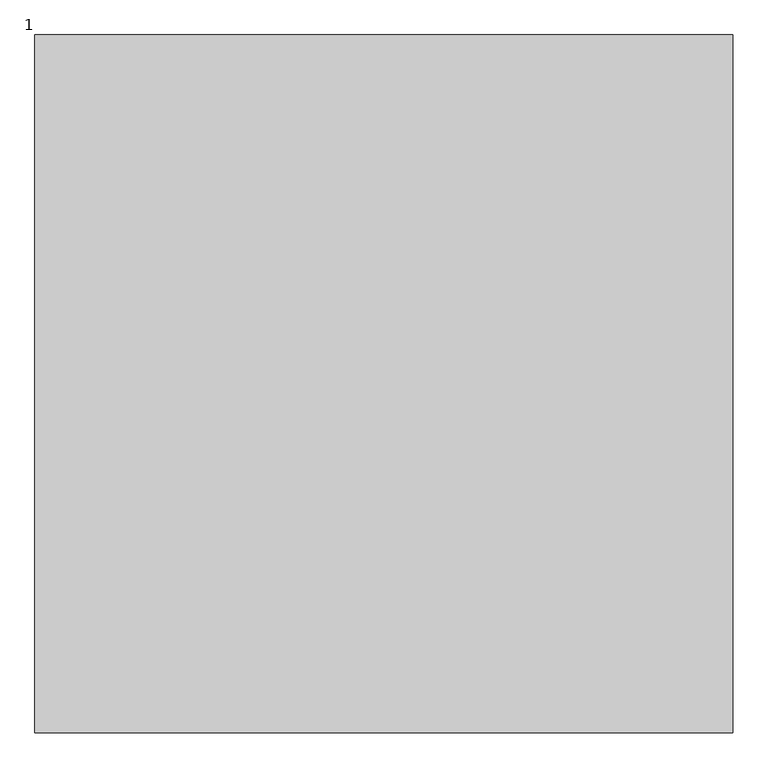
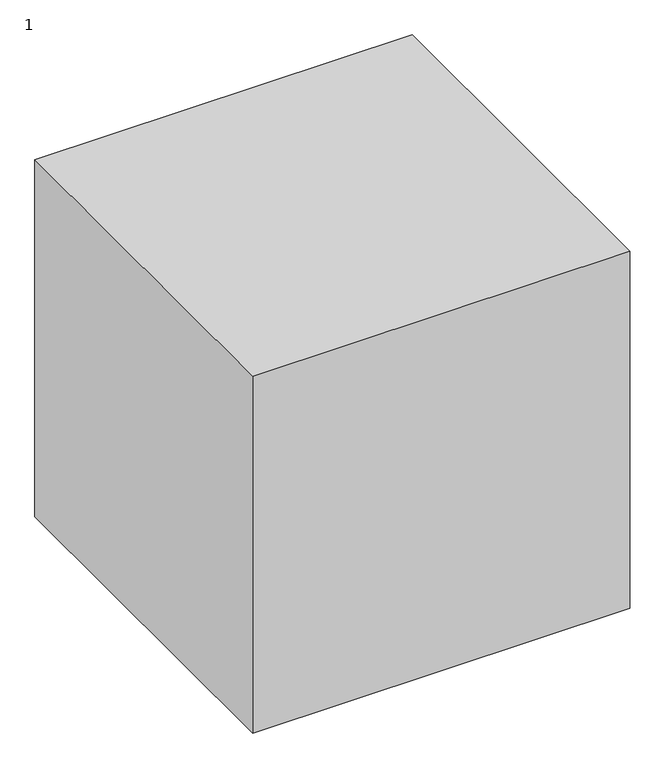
"""IFC4 building model written with IfcOpenShell, lengths in millimetres: proxy geometry, 1222121111 : 1."""

from ifc_helpers import new_model, si_unit, origin, origin_with_axes, place, context, project, spatial, polyline, outline, extrude, source, transform, mapped, element, save


def proxy_1_d7b62491(model_context):
    return source(origin(), model_context, "Body", "SweptSolid", [
        extrude(outline(polyline([(-8307.9756708, -8664.7705528), (-8307.9756708, -9664.7705528), (-9307.9756708, -9664.7705528), (-9307.9756708, -8664.7705528), (-8307.9756708, -8664.7705528)])), origin_with_axes(), (0.0, 0.0, 1.0), 1000.0),
    ])


if __name__ == "__main__":
    model = new_model("IFC4")
    model_context = context("Model", 3, world=origin())
    ifc_project = project(units=[si_unit("LENGTHUNIT", "METRE", prefix="MILLI")], contexts=[model_context])
    site = spatial("IfcSite", under=ifc_project)
    building = spatial("IfcBuilding", under=site)
    placement = place(None, origin())
    proxy_1_shape = proxy_1_d7b62491(model_context)
    element("IfcBuildingElementProxy", 1, Name="1222121111 : 1", ObjectType="1222121111 : 1", at=placement, inside=building, context=model_context, shape_type="MappedRepresentation", body=[
        mapped(proxy_1_shape, transform((0.0, 0.0, 0.0), x_axis=(1.0, 0.0, 0.0), y_axis=(0.0, 1.0, 0.0), z_axis=(0.0, 0.0, 1.0))),
    ])
    save(model, "model.ifc")
